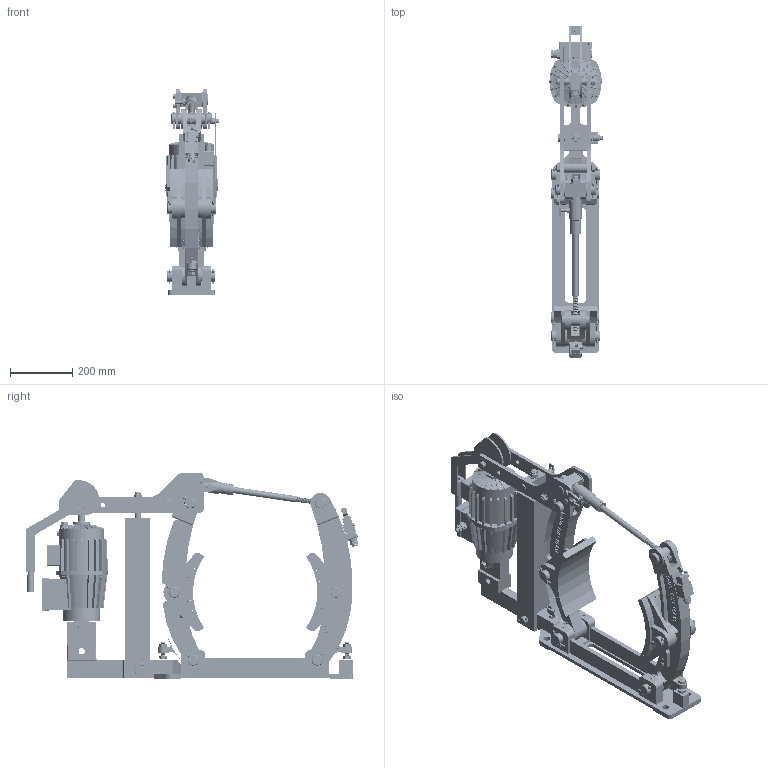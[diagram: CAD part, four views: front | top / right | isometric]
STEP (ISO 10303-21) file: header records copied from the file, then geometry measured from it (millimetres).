
FILE_DESCRIPTION((''),'2;1');
FILE_NAME('4459_404_502_E100000_ASM','2018-02-07T',('VORO'),(''),'CREO PARAMETRIC BY PTC INC, 2017170','CREO PARAMETRIC BY PTC INC, 2017170','');
FILE_SCHEMA(('CONFIG_CONTROL_DESIGN'));
Products named in the file (155): 4459_404_502_E00001005; 4459_404_502_E00001; 4459_404_502_E00001002; 4459_404_502_E00001001; 4459_404_502_E00001003; 4459_404_502_E00001004; 4459_404_502_E00001048; 4459_404_502_E00001064; 4459_404_502_E00001006; 4459_404_502_E00001007; 4459_404_502_E00001008; 4459_404_502_E00001009; 4459_404_502_E00001010; 4459_404_502_E00001011; 4459_404_502_E00001012; 4459_404_502_E00001013; 4459_404_502_E00001014; 4459_404_502_E00001015; 4459_404_502_E00001016; 4459_404_502_E00001017; 4459_404_502_E00001018; 4459_404_502_E00001019; 4459_404_502_E00001036; 4459_404_502_E00001037; 4459_404_502_E00001038; 4459_404_502_E00001039; 4459_404_502_E00001040; 4459_404_502_E00001041; 4459_404_502_E00001042; 4459_404_502_E00001043; 4459_404_502_E00001044; 4459_404_502_E00001045; 4459_404_502_E00001046; 4459_404_502_E00001065; 4459_404_502_E00001066; 4459_404_502_E00001068; 4459_404_502_E00001067; 4459_404_502_E00001070; 4459_404_502_E00001069; 4459_404_502_E00001071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
Assembly tree (154 placements, depth 3):
  4459_404_502_E100000_ASM
    4459_404_502_E00001005
    4459_404_502_E00001
    4459_404_502_E00001002
    4459_404_502_E00001001
    4459_404_502_E00001003
    4459_404_502_E00001004
    4459_404_502_E00001048
    4459_404_502_E00001064
    4459_404_502_E00001006
    4459_404_502_E00001007
    4459_404_502_E00001008
    4459_404_502_E00001009
    4459_404_502_E00001010
    4459_404_502_E00001011
    4459_404_502_E00001012
    4459_404_502_E00001013
    4459_404_502_E00001014
    4459_404_502_E00001015
    4459_404_502_E00001016
    4459_404_502_E00001017
    4459_404_502_E00001018
    4459_404_502_E00001019
    4459_404_502_E00001036
    4459_404_502_E00001037
    4459_404_502_E00001038
    4459_404_502_E00001039
    4459_404_502_E00001040
    4459_404_502_E00001041
    4459_404_502_E00001042
    4459_404_502_E00001043
    4459_404_502_E00001044
    4459_404_502_E00001045
    4459_404_502_E00001046
    4459_404_502_E00001065
    4459_404_502_E00001066
    4459_404_502_E00001068
    4459_404_502_E00001067
    4459_404_502_E00001070
    4459_404_502_E00001069
    4459_404_502_E00001071
    4459_404_502_E00001072
    4459_404_502_E00001073
    4459_404_502_E00001076
    4459_404_502_E00001080
    4459_404_502_E00001079
    4459_404_502_E00001078
    4459_404_502_E00001075
    4459_404_502_E00001074
    4459_404_502_E00001077
    4459_404_502_E00001081
    4459_404_502_E00001083
    4459_404_502_E00001082
    4459_404_502_E00001084
    4459_404_502_E00001085
    4459_404_502_E00001086
    4459_404_502_E00001052
    4459_404_502_E00001054
    4459_404_502_E00001055
    4459_404_502_E00001056
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Bounding box: 170.79 x 1067.85 x 664.5 mm (x, y, z)
Surface area: 2741162 mm2 (no closed solid volume)
Topology: 0 solids, 4821 shells, 5386 faces, 33522 edges, 32335 vertices
Faces by surface type: plane 2529, cylinder 1890, cone 733, torus 199, bspline 35
Entity records: 521318 total; most frequent: CARTESIAN_POINT 136812, DIRECTION 39081, PRESENTATION_STYLE_ASSIGNMENT 38585, ORIENTED_EDGE 34679, STYLED_ITEM 33772, EDGE_CURVE 33507, VERTEX_POINT 32342, CURVE_STYLE 28921
